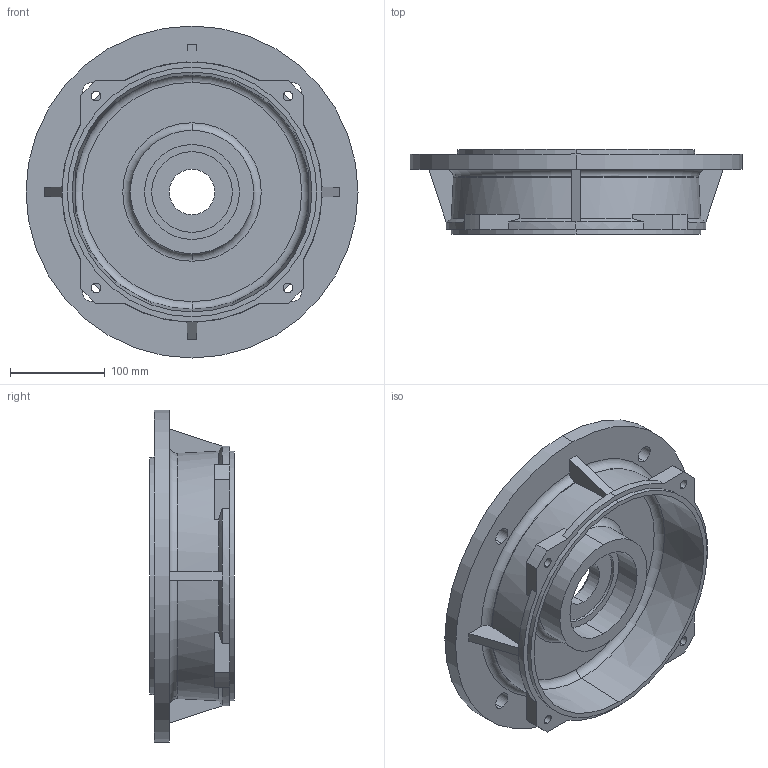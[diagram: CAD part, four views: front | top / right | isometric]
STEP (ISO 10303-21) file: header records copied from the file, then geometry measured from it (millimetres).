
FILE_DESCRIPTION (( 'STEP AP203' ), '1' );
FILE_NAME ('160B5裔.STEP', '2023-02-21T10:23:16', ( '' ), ( '' ), 'SwSTEP 2.0', 'SolidWorks 2018', '' );
FILE_SCHEMA (( 'CONFIG_CONTROL_DESIGN' ));
Length unit declared in the file: millimetre
Products named in the file (1): 160B5裔
Bounding box: 350 x 89.5 x 350 mm (x, y, z)
Volume: 1925485.4 mm3; surface area: 375181 mm2
Topology: 1 solids, 1 shells, 119 faces, 300 edges, 193 vertices
Faces by surface type: cylinder 45, plane 44, torus 16, cone 14
Entity records: 3976 total; most frequent: CARTESIAN_POINT 961, DIRECTION 637, ORIENTED_EDGE 600, EDGE_CURVE 300, AXIS2_PLACEMENT_3D 265, VERTEX_POINT 193, EDGE_LOOP 147, CIRCLE 145
